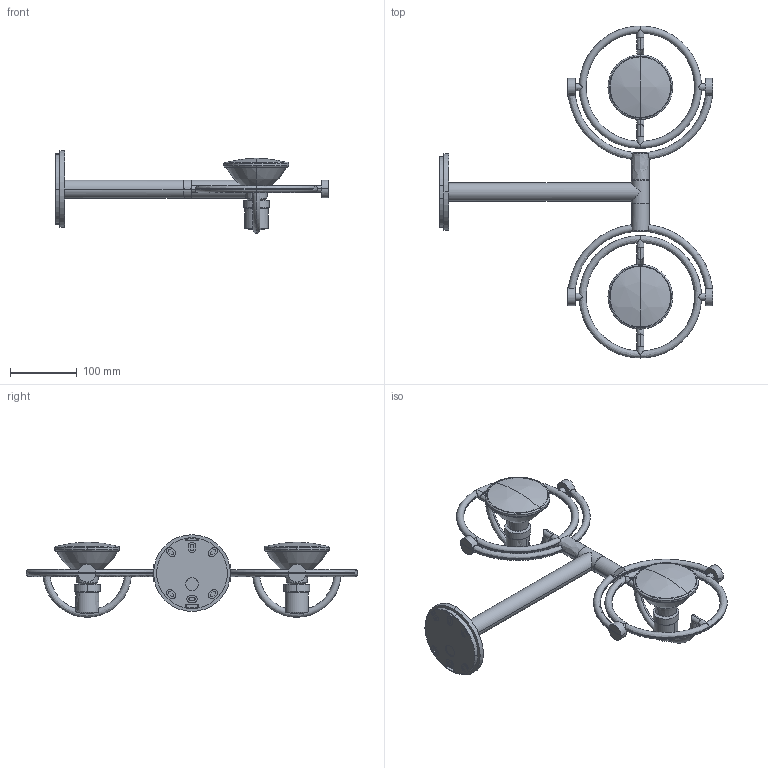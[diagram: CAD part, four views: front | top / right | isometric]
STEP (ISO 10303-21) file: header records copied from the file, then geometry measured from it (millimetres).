
FILE_DESCRIPTION((''),'2;1');
FILE_NAME('CINI&NILS - Faridue parete soffitto 3D.stp','2011-02-17T14:31:31',(''),(''),'AutoCAD STEP 2000i','AutoCAD 2000i',', , ');
FILE_SCHEMA(('CONFIG_CONTROL_DESIGN'));
Length unit declared in the file: millimetre
Products named in the file (1): CINI&NILS - FARIDUE PARETE SOFFITTO 3D
Bounding box: 410.02 x 497.75 x 123.78 mm (x, y, z)
Volume: 1061525.6 mm3; surface area: 196017.6 mm2
Topology: 1 solids, 7 shells, 390 faces, 1071 edges, 714 vertices
Faces by surface type: bspline 143, plane 118, cylinder 109, torus 14, cone 4, sphere 2
Entity records: 15329 total; most frequent: CARTESIAN_POINT 5555, ORIENTED_EDGE 2142, DIRECTION 1918, EDGE_CURVE 1071, AXIS2_PLACEMENT_3D 717, VERTEX_POINT 714, VECTOR 484, LINE 484
